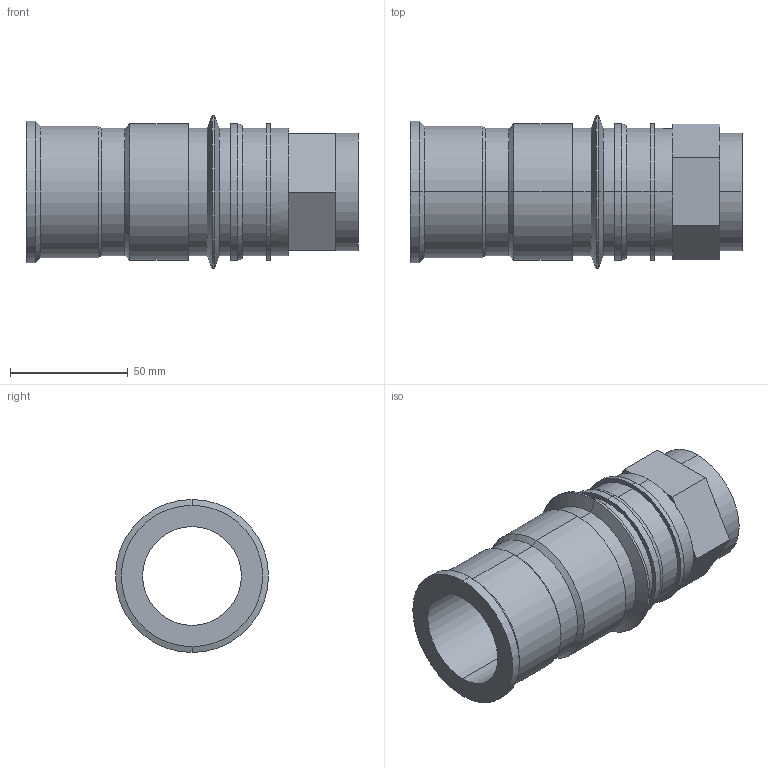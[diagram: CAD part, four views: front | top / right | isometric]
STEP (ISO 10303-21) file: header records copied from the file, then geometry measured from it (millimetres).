
FILE_DESCRIPTION (( 'STEP AP214' ), '1' );
FILE_NAME ('BR601.25 DGB 42.STEP', '2020-12-02T13:17:22', ( '' ), ( '' ), 'SwSTEP 2.0', 'SolidWorks 2018', '' );
FILE_SCHEMA (( 'AUTOMOTIVE_DESIGN' ));
Length unit declared in the file: millimetre
Products named in the file (1): BR601.25 DGB 42
Bounding box: 141 x 64.99 x 64.99 mm (x, y, z)
Volume: 143720.5 mm3; surface area: 49134.1 mm2
Topology: 1 solids, 1 shells, 69 faces, 144 edges, 82 vertices
Faces by surface type: plane 31, cylinder 26, cone 12
Entity records: 1850 total; most frequent: DIRECTION 354, CARTESIAN_POINT 296, ORIENTED_EDGE 288, EDGE_CURVE 144, AXIS2_PLACEMENT_3D 140, VERTEX_POINT 82, EDGE_LOOP 76, VECTOR 74
